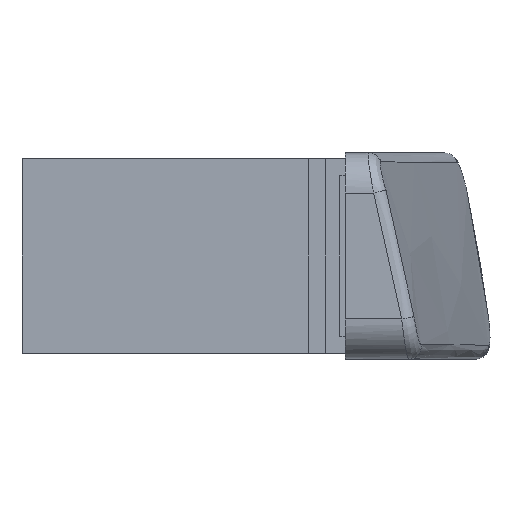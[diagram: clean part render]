
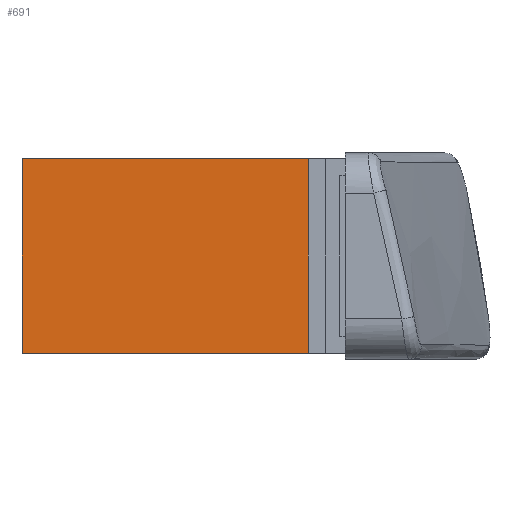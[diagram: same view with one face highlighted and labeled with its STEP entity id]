
A CAD part, front view. The second image highlights one B-rep face of the part: STEP entity #691.
In plain terms, the highlighted planar face has unit normal (0, -1, 0).
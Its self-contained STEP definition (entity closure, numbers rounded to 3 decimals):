
#85 = VERTEX_POINT('',#86);
#86 = CARTESIAN_POINT('',(29.294,46.4,13.8));
#100 = PLANE('',#101);
#101 = AXIS2_PLACEMENT_3D('',#102,#103,#104);
#102 = CARTESIAN_POINT('',(30.394,46.4,13.8));
#103 = DIRECTION('',(-0.,1.,0.));
#104 = DIRECTION('',(0.,0.,-1.));
#126 = PLANE('',#127);
#127 = AXIS2_PLACEMENT_3D('',#128,#129,#130);
#128 = CARTESIAN_POINT('',(30.394,46.4,13.8));
#129 = DIRECTION('',(0.,0.,1.));
#130 = DIRECTION('',(1.,0.,0.));
#251 = EDGE_CURVE('',#85,#252,#254,.T.);
#252 = VERTEX_POINT('',#253);
#253 = CARTESIAN_POINT('',(24.294,46.4,13.8));
#254 = SURFACE_CURVE('',#255,(#259,#266),.PCURVE_S1.);
#255 = LINE('',#256,#257);
#256 = CARTESIAN_POINT('',(30.394,46.4,13.8));
#257 = VECTOR('',#258,1.);
#258 = DIRECTION('',(-1.,-0.,0.));
#259 = PCURVE('',#126,#260);
#260 = DEFINITIONAL_REPRESENTATION('',(#261),#265);
#261 = LINE('',#262,#263);
#262 = CARTESIAN_POINT('',(0.,-0.));
#263 = VECTOR('',#264,1.);
#264 = DIRECTION('',(-1.,0.));
#265 = ( GEOMETRIC_REPRESENTATION_CONTEXT(2) 
PARAMETRIC_REPRESENTATION_CONTEXT() REPRESENTATION_CONTEXT('2D SPACE',''
  ) );
#266 = PCURVE('',#267,#272);
#267 = PLANE('',#268);
#268 = AXIS2_PLACEMENT_3D('',#269,#270,#271);
#269 = CARTESIAN_POINT('',(30.394,46.4,13.8));
#270 = DIRECTION('',(-0.,1.,0.));
#271 = DIRECTION('',(0.,0.,-1.));
#272 = DEFINITIONAL_REPRESENTATION('',(#273),#277);
#273 = LINE('',#274,#275);
#274 = CARTESIAN_POINT('',(-0.,-0.));
#275 = VECTOR('',#276,1.);
#276 = DIRECTION('',(-0.,1.));
#277 = ( GEOMETRIC_REPRESENTATION_CONTEXT(2) 
PARAMETRIC_REPRESENTATION_CONTEXT() REPRESENTATION_CONTEXT('2D SPACE',''
  ) );
#293 = PLANE('',#294);
#294 = AXIS2_PLACEMENT_3D('',#295,#296,#297);
#295 = CARTESIAN_POINT('',(24.294,46.4,13.8));
#296 = DIRECTION('',(-1.,-0.,0.));
#297 = DIRECTION('',(0.,0.,-1.));
#373 = VERTEX_POINT('',#374);
#374 = CARTESIAN_POINT('',(29.294,46.4,17.2));
#395 = EDGE_CURVE('',#85,#373,#396,.T.);
#396 = SURFACE_CURVE('',#397,(#401,#408),.PCURVE_S1.);
#397 = LINE('',#398,#399);
#398 = CARTESIAN_POINT('',(29.294,46.4,13.8));
#399 = VECTOR('',#400,1.);
#400 = DIRECTION('',(0.,0.,1.));
#401 = PCURVE('',#100,#402);
#402 = DEFINITIONAL_REPRESENTATION('',(#403),#407);
#403 = LINE('',#404,#405);
#404 = CARTESIAN_POINT('',(-0.,1.1));
#405 = VECTOR('',#406,1.);
#406 = DIRECTION('',(-1.,-0.));
#407 = ( GEOMETRIC_REPRESENTATION_CONTEXT(2) 
PARAMETRIC_REPRESENTATION_CONTEXT() REPRESENTATION_CONTEXT('2D SPACE',''
  ) );
#408 = PCURVE('',#267,#409);
#409 = DEFINITIONAL_REPRESENTATION('',(#410),#414);
#410 = LINE('',#411,#412);
#411 = CARTESIAN_POINT('',(-0.,1.1));
#412 = VECTOR('',#413,1.);
#413 = DIRECTION('',(-1.,-0.));
#414 = ( GEOMETRIC_REPRESENTATION_CONTEXT(2) 
PARAMETRIC_REPRESENTATION_CONTEXT() REPRESENTATION_CONTEXT('2D SPACE',''
  ) );
#511 = PLANE('',#512);
#512 = AXIS2_PLACEMENT_3D('',#513,#514,#515);
#513 = CARTESIAN_POINT('',(30.394,46.4,17.2));
#514 = DIRECTION('',(0.,0.,1.));
#515 = DIRECTION('',(1.,0.,0.));
#646 = EDGE_CURVE('',#252,#647,#649,.T.);
#647 = VERTEX_POINT('',#648);
#648 = CARTESIAN_POINT('',(24.294,46.4,17.2));
#649 = SURFACE_CURVE('',#650,(#654,#661),.PCURVE_S1.);
#650 = LINE('',#651,#652);
#651 = CARTESIAN_POINT('',(24.294,46.4,13.8));
#652 = VECTOR('',#653,1.);
#653 = DIRECTION('',(0.,0.,1.));
#654 = PCURVE('',#293,#655);
#655 = DEFINITIONAL_REPRESENTATION('',(#656),#660);
#656 = LINE('',#657,#658);
#657 = CARTESIAN_POINT('',(-0.,-0.));
#658 = VECTOR('',#659,1.);
#659 = DIRECTION('',(-1.,-0.));
#660 = ( GEOMETRIC_REPRESENTATION_CONTEXT(2) 
PARAMETRIC_REPRESENTATION_CONTEXT() REPRESENTATION_CONTEXT('2D SPACE',''
  ) );
#661 = PCURVE('',#267,#662);
#662 = DEFINITIONAL_REPRESENTATION('',(#663),#667);
#663 = LINE('',#664,#665);
#664 = CARTESIAN_POINT('',(-0.,6.1));
#665 = VECTOR('',#666,1.);
#666 = DIRECTION('',(-1.,0.));
#667 = ( GEOMETRIC_REPRESENTATION_CONTEXT(2) 
PARAMETRIC_REPRESENTATION_CONTEXT() REPRESENTATION_CONTEXT('2D SPACE',''
  ) );
#691 = ADVANCED_FACE('',(#692),#267,.F.);
#692 = FACE_BOUND('',#693,.T.);
#693 = EDGE_LOOP('',(#694,#695,#696,#717));
#694 = ORIENTED_EDGE('',*,*,#251,.F.);
#695 = ORIENTED_EDGE('',*,*,#395,.T.);
#696 = ORIENTED_EDGE('',*,*,#697,.T.);
#697 = EDGE_CURVE('',#373,#647,#698,.T.);
#698 = SURFACE_CURVE('',#699,(#703,#710),.PCURVE_S1.);
#699 = LINE('',#700,#701);
#700 = CARTESIAN_POINT('',(30.394,46.4,17.2));
#701 = VECTOR('',#702,1.);
#702 = DIRECTION('',(-1.,-0.,0.));
#703 = PCURVE('',#267,#704);
#704 = DEFINITIONAL_REPRESENTATION('',(#705),#709);
#705 = LINE('',#706,#707);
#706 = CARTESIAN_POINT('',(-3.4,-0.));
#707 = VECTOR('',#708,1.);
#708 = DIRECTION('',(-0.,1.));
#709 = ( GEOMETRIC_REPRESENTATION_CONTEXT(2) 
PARAMETRIC_REPRESENTATION_CONTEXT() REPRESENTATION_CONTEXT('2D SPACE',''
  ) );
#710 = PCURVE('',#511,#711);
#711 = DEFINITIONAL_REPRESENTATION('',(#712),#716);
#712 = LINE('',#713,#714);
#713 = CARTESIAN_POINT('',(0.,-0.));
#714 = VECTOR('',#715,1.);
#715 = DIRECTION('',(-1.,0.));
#716 = ( GEOMETRIC_REPRESENTATION_CONTEXT(2) 
PARAMETRIC_REPRESENTATION_CONTEXT() REPRESENTATION_CONTEXT('2D SPACE',''
  ) );
#717 = ORIENTED_EDGE('',*,*,#646,.F.);
